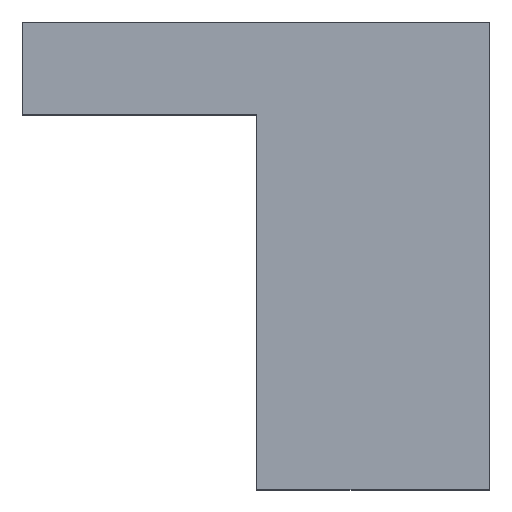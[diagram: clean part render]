
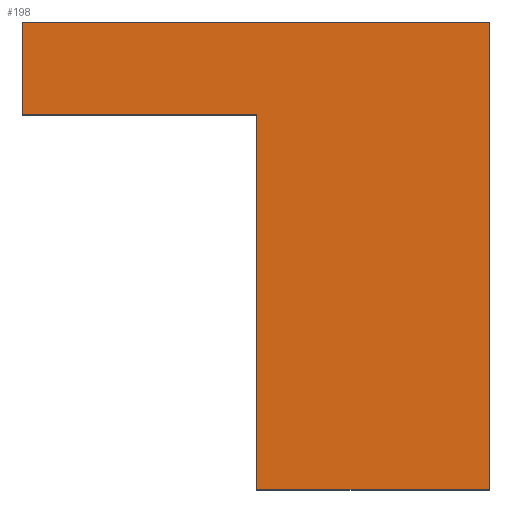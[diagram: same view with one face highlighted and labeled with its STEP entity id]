
A CAD part, top view. The second image highlights one B-rep face of the part: STEP entity #198.
In plain terms, the highlighted planar face has unit normal (0, 0, 1).
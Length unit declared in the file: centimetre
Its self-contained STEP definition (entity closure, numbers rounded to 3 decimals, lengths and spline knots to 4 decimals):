
#9 = CARTESIAN_POINT ( 'NONE',  ( 1000., 1000., 1000. ) ) ;
#13 = ORIENTED_EDGE ( 'NONE', *, *, #206, .T. ) ;
#15 = CARTESIAN_POINT ( 'NONE',  ( 0., 0., 1000. ) ) ;
#17 = LINE ( 'NONE', #439, #291 ) ;
#20 = EDGE_CURVE ( 'NONE', #164, #200, #103, .T. ) ;
#21 = DIRECTION ( 'NONE',  ( 1., 0., 0. ) ) ;
#23 = LINE ( 'NONE', #348, #56 ) ;
#31 = CARTESIAN_POINT ( 'NONE',  ( 501.2785, 0., 1000. ) ) ;
#35 = ORIENTED_EDGE ( 'NONE', *, *, #183, .T. ) ;
#40 = ORIENTED_EDGE ( 'NONE', *, *, #20, .T. ) ;
#56 = VECTOR ( 'NONE', #126, 100. ) ;
#59 = ORIENTED_EDGE ( 'NONE', *, *, #236, .T. ) ;
#80 = VECTOR ( 'NONE', #373, 100. ) ;
#85 = CARTESIAN_POINT ( 'NONE',  ( 0., 1000., 1000. ) ) ;
#96 = VERTEX_POINT ( 'NONE', #9 ) ;
#100 = ORIENTED_EDGE ( 'NONE', *, *, #146, .T. ) ;
#103 = LINE ( 'NONE', #213, #339 ) ;
#116 = ORIENTED_EDGE ( 'NONE', *, *, #220, .T. ) ;
#126 = DIRECTION ( 'NONE',  ( -1., 0., 0. ) ) ;
#146 = EDGE_CURVE ( 'NONE', #197, #277, #256, .T. ) ;
#151 = DIRECTION ( 'NONE',  ( 0., -1., 0. ) ) ;
#157 = VECTOR ( 'NONE', #151, 100. ) ;
#158 = CARTESIAN_POINT ( 'NONE',  ( 0., 801.0323, 1000. ) ) ;
#159 = DIRECTION ( 'NONE',  ( 0., 0., 1. ) ) ;
#164 = VERTEX_POINT ( 'NONE', #442 ) ;
#183 = EDGE_CURVE ( 'NONE', #191, #96, #17, .T. ) ;
#191 = VERTEX_POINT ( 'NONE', #404 ) ;
#195 = CARTESIAN_POINT ( 'NONE',  ( 0., 0., 1000. ) ) ;
#197 = VERTEX_POINT ( 'NONE', #85 ) ;
#198 = ADVANCED_FACE ( 'NONE', ( #224 ), #336, .T. ) ;
#200 = VERTEX_POINT ( 'NONE', #31 ) ;
#206 = EDGE_CURVE ( 'NONE', #200, #191, #300, .T. ) ;
#213 = CARTESIAN_POINT ( 'NONE',  ( 501.2785, 0., 1000. ) ) ;
#219 = CARTESIAN_POINT ( 'NONE',  ( 0., 1000., 1000. ) ) ;
#220 = EDGE_CURVE ( 'NONE', #96, #197, #23, .T. ) ;
#224 = FACE_OUTER_BOUND ( 'NONE', #431, .T. ) ;
#236 = EDGE_CURVE ( 'NONE', #277, #164, #450, .T. ) ;
#256 = LINE ( 'NONE', #219, #157 ) ;
#264 = VECTOR ( 'NONE', #306, 100. ) ;
#277 = VERTEX_POINT ( 'NONE', #158 ) ;
#291 = VECTOR ( 'NONE', #397, 100. ) ;
#300 = LINE ( 'NONE', #195, #264 ) ;
#306 = DIRECTION ( 'NONE',  ( 1., 0., 0. ) ) ;
#336 = PLANE ( 'NONE',  #389 ) ;
#339 = VECTOR ( 'NONE', #394, 100. ) ;
#348 = CARTESIAN_POINT ( 'NONE',  ( 0., 1000., 1000. ) ) ;
#373 = DIRECTION ( 'NONE',  ( 1., 0., 0. ) ) ;
#389 = AXIS2_PLACEMENT_3D ( 'NONE', #15, #159, #21 ) ;
#394 = DIRECTION ( 'NONE',  ( 0., -1., 0. ) ) ;
#397 = DIRECTION ( 'NONE',  ( 0., 1., 0. ) ) ;
#404 = CARTESIAN_POINT ( 'NONE',  ( 1000., 0., 1000. ) ) ;
#431 = EDGE_LOOP ( 'NONE', ( #40, #13, #35, #116, #100, #59 ) ) ;
#439 = CARTESIAN_POINT ( 'NONE',  ( 1000., 1000., 1000. ) ) ;
#442 = CARTESIAN_POINT ( 'NONE',  ( 501.2785, 801.0323, 1000. ) ) ;
#448 = CARTESIAN_POINT ( 'NONE',  ( 0., 801.0323, 1000. ) ) ;
#450 = LINE ( 'NONE', #448, #80 ) ;
